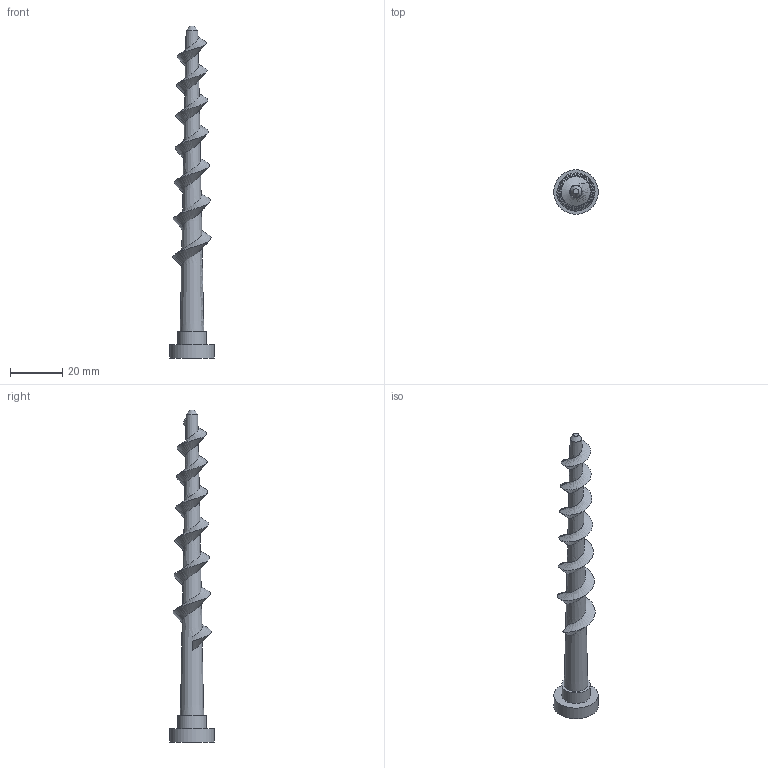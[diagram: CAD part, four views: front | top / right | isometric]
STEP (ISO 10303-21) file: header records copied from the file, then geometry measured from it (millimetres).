
FILE_DESCRIPTION(/* description */ ('Unknown','CAx-IF Rec.Pracs.---Representation and Presentation of Product Manufacturing Information (PMI)---4.0---2014-10-13','CAx-IF Rec.Pracs.---3D Tessellated Geometry---0.4---2014-09-14','2;1'),/* implementation_level */ '2;1');
FILE_NAME(/* name */ 'Ground Screw',/* time_stamp */ '2022-04-25T19:38:53+02:00',/* author */ ('N3XT3D'),/* organization */ ('privat'),/* preprocessor_version */ 'ST-DEVELOPER v16.7',/* originating_system */ 'Solid Edge',/* authorisation */ 'Unknown');
FILE_SCHEMA (('AP242_MANAGED_MODEL_BASED_3D_ENGINEERING_MIM_LF { 1 0 10303 442 1 1 4 }'));
Length unit declared in the file: millimetre
Products named in the file (1): Bodenschraube
Bounding box: 17 x 17 x 126.79 mm (x, y, z)
Volume: 7211.7 mm3; surface area: 4513.5 mm2
Topology: 1 solids, 1 shells, 26 faces, 62 edges, 41 vertices
Faces by surface type: plane 13, cone 8, bspline 3, cylinder 2
Full cylindrical faces by diameter (mm): 11 x1, 17 x1
Entity records: 3395 total; most frequent: CARTESIAN_POINT 2976, ORIENTED_EDGE 74, DIRECTION 74, EDGE_CURVE 37, EDGE_LOOP 28, FACE_BOUND 28, VERTEX_POINT 27, AXIS2_PLACEMENT_3D 26
